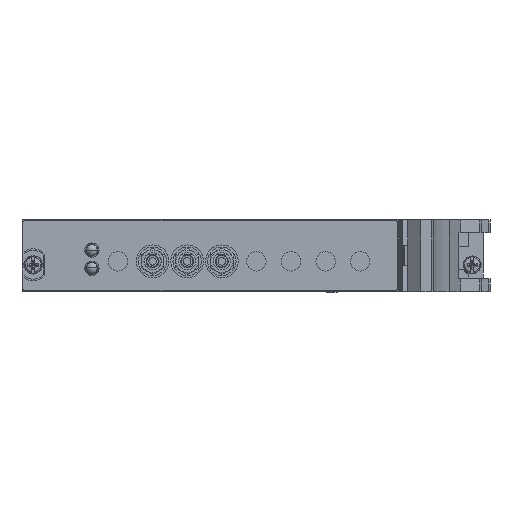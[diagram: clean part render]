
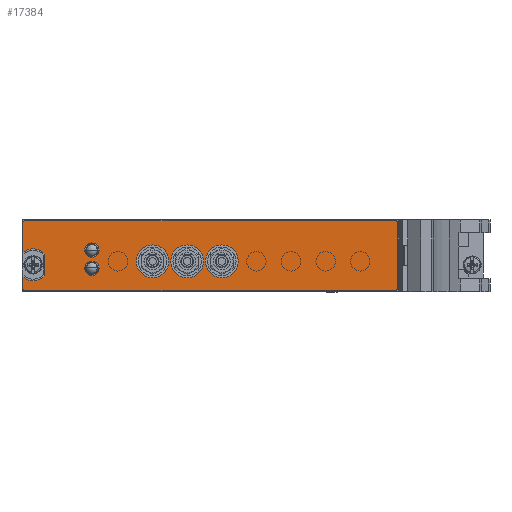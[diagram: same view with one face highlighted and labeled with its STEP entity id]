
A CAD part, left-side view. The second image highlights one B-rep face of the part: STEP entity #17384.
In plain terms, the highlighted planar face has unit normal (-1, 0, 0).
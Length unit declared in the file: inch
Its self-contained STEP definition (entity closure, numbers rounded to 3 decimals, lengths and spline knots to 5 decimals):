
#3555=CARTESIAN_POINT('',(-0.215,0.53465,0.665));
#3556=DIRECTION('',(-1.,0.,0.));
#3557=DIRECTION('',(0.,0.,1.));
#3558=AXIS2_PLACEMENT_3D('',#3555,#3556,#3557);
#3560=DIRECTION('',(0.,1.,0.));
#3561=VECTOR('',#3560,4.07);
#3562=CARTESIAN_POINT('',(-0.215,-3.53535,0.685));
#3563=LINE('',#3562,#3561);
#3564=CARTESIAN_POINT('',(-0.215,-3.53535,0.665));
#3565=DIRECTION('',(-1.,0.,0.));
#3566=DIRECTION('',(0.,-1.,0.));
#3567=AXIS2_PLACEMENT_3D('',#3564,#3565,#3566);
#3569=DIRECTION('',(0.,0.,1.));
#3570=VECTOR('',#3569,0.728);
#3571=CARTESIAN_POINT('',(-0.215,-3.55535,-0.063));
#3572=LINE('',#3571,#3570);
#3573=CARTESIAN_POINT('',(-0.215,-3.53535,-0.063));
#3574=DIRECTION('',(-1.,0.,0.));
#3575=DIRECTION('',(0.,0.,-1.));
#3576=AXIS2_PLACEMENT_3D('',#3573,#3574,#3575);
#3578=DIRECTION('',(0.,-1.,0.));
#3579=VECTOR('',#3578,4.07);
#3580=CARTESIAN_POINT('',(-0.215,0.53465,-0.083));
#3581=LINE('',#3580,#3579);
#3582=CARTESIAN_POINT('',(-0.215,0.53465,-0.063));
#3583=DIRECTION('',(-1.,0.,0.));
#3584=DIRECTION('',(0.,1.,0.));
#3585=AXIS2_PLACEMENT_3D('',#3582,#3583,#3584);
#3587=DIRECTION('',(0.,0.,-1.));
#3588=VECTOR('',#3587,0.12953);
#3589=CARTESIAN_POINT('',(-0.215,0.55465,0.06653));
#3590=LINE('',#3589,#3588);
#3591=CARTESIAN_POINT('',(-0.215,0.44265,0.201));
#3592=DIRECTION('',(1.,0.,0.));
#3593=DIRECTION('',(0.,-0.737,-0.676));
#3594=AXIS2_PLACEMENT_3D('',#3591,#3592,#3593);
#3596=DIRECTION('',(0.,0.,-1.));
#3597=VECTOR('',#3596,0.23651);
#3598=CARTESIAN_POINT('',(-0.215,0.31365,0.31925));
#3599=LINE('',#3598,#3597);
#3600=CARTESIAN_POINT('',(-0.215,0.44265,0.201));
#3601=DIRECTION('',(1.,0.,0.));
#3602=DIRECTION('',(0.,0.64,0.768));
#3603=AXIS2_PLACEMENT_3D('',#3600,#3601,#3602);
#3605=DIRECTION('',(0.,0.,-1.));
#3606=VECTOR('',#3605,0.32953);
#3607=CARTESIAN_POINT('',(-0.215,0.55465,0.665));
#3608=LINE('',#3607,#3606);
#3609=CARTESIAN_POINT('',(-0.215,-0.20196,0.362));
#3610=DIRECTION('',(-1.,0.,0.));
#3611=DIRECTION('',(0.,0.,1.));
#3612=AXIS2_PLACEMENT_3D('',#3609,#3610,#3611);
#3614=CARTESIAN_POINT('',(-0.215,-0.20196,0.362));
#3615=DIRECTION('',(-1.,0.,0.));
#3616=DIRECTION('',(0.,0.,-1.));
#3617=AXIS2_PLACEMENT_3D('',#3614,#3615,#3616);
#3619=CARTESIAN_POINT('',(-0.215,-0.20196,0.162));
#3620=DIRECTION('',(-1.,0.,0.));
#3621=DIRECTION('',(0.,0.,1.));
#3622=AXIS2_PLACEMENT_3D('',#3619,#3620,#3621);
#3624=CARTESIAN_POINT('',(-0.215,-0.20196,0.162));
#3625=DIRECTION('',(-1.,0.,0.));
#3626=DIRECTION('',(0.,0.,-1.));
#3627=AXIS2_PLACEMENT_3D('',#3624,#3625,#3626);
#3629=CARTESIAN_POINT('',(-0.215,-1.62896,0.239));
#3630=DIRECTION('',(-1.,0.,0.));
#3631=DIRECTION('',(0.,0.,1.));
#3632=AXIS2_PLACEMENT_3D('',#3629,#3630,#3631);
#3634=CARTESIAN_POINT('',(-0.215,-1.62896,0.239));
#3635=DIRECTION('',(-1.,0.,0.));
#3636=DIRECTION('',(0.,0.,-1.));
#3637=AXIS2_PLACEMENT_3D('',#3634,#3635,#3636);
#3639=CARTESIAN_POINT('',(-0.215,-1.24896,0.239));
#3640=DIRECTION('',(-1.,0.,0.));
#3641=DIRECTION('',(0.,0.,1.));
#3642=AXIS2_PLACEMENT_3D('',#3639,#3640,#3641);
#3644=CARTESIAN_POINT('',(-0.215,-1.24896,0.239));
#3645=DIRECTION('',(-1.,0.,0.));
#3646=DIRECTION('',(0.,0.,-1.));
#3647=AXIS2_PLACEMENT_3D('',#3644,#3645,#3646);
#3649=CARTESIAN_POINT('',(-0.215,-0.86896,0.239));
#3650=DIRECTION('',(-1.,0.,0.));
#3651=DIRECTION('',(0.,0.,1.));
#3652=AXIS2_PLACEMENT_3D('',#3649,#3650,#3651);
#3654=CARTESIAN_POINT('',(-0.215,-0.86896,0.239));
#3655=DIRECTION('',(-1.,0.,0.));
#3656=DIRECTION('',(0.,0.,-1.));
#3657=AXIS2_PLACEMENT_3D('',#3654,#3655,#3656);
#12288=CARTESIAN_POINT('',(-0.215,0.53465,0.685));
#12289=CARTESIAN_POINT('',(-0.215,0.55465,0.665));
#12290=VERTEX_POINT('',#12288);
#12291=VERTEX_POINT('',#12289);
#12292=CARTESIAN_POINT('',(-0.215,0.55465,0.33547));
#12293=VERTEX_POINT('',#12292);
#12294=CARTESIAN_POINT('',(-0.215,0.31365,0.31925));
#12295=VERTEX_POINT('',#12294);
#12296=CARTESIAN_POINT('',(-0.215,0.31365,0.08275));
#12297=VERTEX_POINT('',#12296);
#12298=CARTESIAN_POINT('',(-0.215,0.55465,0.06653));
#12299=VERTEX_POINT('',#12298);
#12300=CARTESIAN_POINT('',(-0.215,0.55465,-0.063));
#12301=VERTEX_POINT('',#12300);
#12302=CARTESIAN_POINT('',(-0.215,0.53465,-0.083));
#12303=VERTEX_POINT('',#12302);
#12304=CARTESIAN_POINT('',(-0.215,-3.53535,-0.083));
#12305=VERTEX_POINT('',#12304);
#12306=CARTESIAN_POINT('',(-0.215,-3.55535,-0.063));
#12307=VERTEX_POINT('',#12306);
#12308=CARTESIAN_POINT('',(-0.215,-3.55535,0.665));
#12309=VERTEX_POINT('',#12308);
#12310=CARTESIAN_POINT('',(-0.215,-3.53535,0.685));
#12311=VERTEX_POINT('',#12310);
#12312=CARTESIAN_POINT('',(-0.215,-0.20196,0.441));
#12313=CARTESIAN_POINT('',(-0.215,-0.20196,0.283));
#12314=VERTEX_POINT('',#12312);
#12315=VERTEX_POINT('',#12313);
#12316=CARTESIAN_POINT('',(-0.215,-0.20196,0.241));
#12317=CARTESIAN_POINT('',(-0.215,-0.20196,0.083));
#12318=VERTEX_POINT('',#12316);
#12319=VERTEX_POINT('',#12317);
#12320=CARTESIAN_POINT('',(-0.215,-1.62896,0.419));
#12321=CARTESIAN_POINT('',(-0.215,-1.62896,0.059));
#12322=VERTEX_POINT('',#12320);
#12323=VERTEX_POINT('',#12321);
#12324=CARTESIAN_POINT('',(-0.215,-1.24896,0.419));
#12325=CARTESIAN_POINT('',(-0.215,-1.24896,0.059));
#12326=VERTEX_POINT('',#12324);
#12327=VERTEX_POINT('',#12325);
#12328=CARTESIAN_POINT('',(-0.215,-0.86896,0.419));
#12329=CARTESIAN_POINT('',(-0.215,-0.86896,0.059));
#12330=VERTEX_POINT('',#12328);
#12331=VERTEX_POINT('',#12329);
#17335=CARTESIAN_POINT('',(-0.215,0.44265,0.201));
#17336=DIRECTION('',(-1.,0.,0.));
#17337=DIRECTION('',(0.,0.,1.));
#17338=AXIS2_PLACEMENT_3D('',#17335,#17336,#17337);
#17339=PLANE('',#17338);
#17340=ORIENTED_EDGE('',*,*,#17175,.F.);
#17341=ORIENTED_EDGE('',*,*,#17190,.F.);
#17342=ORIENTED_EDGE('',*,*,#17204,.F.);
#17343=ORIENTED_EDGE('',*,*,#17218,.F.);
#17344=ORIENTED_EDGE('',*,*,#17232,.F.);
#17345=ORIENTED_EDGE('',*,*,#17246,.F.);
#17346=ORIENTED_EDGE('',*,*,#17260,.F.);
#17347=ORIENTED_EDGE('',*,*,#17274,.F.);
#17348=ORIENTED_EDGE('',*,*,#17288,.F.);
#17349=ORIENTED_EDGE('',*,*,#17302,.F.);
#17350=ORIENTED_EDGE('',*,*,#17316,.F.);
#17351=ORIENTED_EDGE('',*,*,#17329,.F.);
#17352=EDGE_LOOP('',(#17340,#17341,#17342,#17343,#17344,#17345,#17346,#17347,
#17348,#17349,#17350,#17351));
#17353=FACE_OUTER_BOUND('',#17352,.F.);
#17355=ORIENTED_EDGE('',*,*,#17354,.T.);
#17357=ORIENTED_EDGE('',*,*,#17356,.T.);
#17358=EDGE_LOOP('',(#17355,#17357));
#17359=FACE_BOUND('',#17358,.F.);
#17361=ORIENTED_EDGE('',*,*,#17360,.T.);
#17363=ORIENTED_EDGE('',*,*,#17362,.T.);
#17364=EDGE_LOOP('',(#17361,#17363));
#17365=FACE_BOUND('',#17364,.F.);
#17367=ORIENTED_EDGE('',*,*,#17366,.T.);
#17369=ORIENTED_EDGE('',*,*,#17368,.T.);
#17370=EDGE_LOOP('',(#17367,#17369));
#17371=FACE_BOUND('',#17370,.F.);
#17373=ORIENTED_EDGE('',*,*,#17372,.T.);
#17375=ORIENTED_EDGE('',*,*,#17374,.T.);
#17376=EDGE_LOOP('',(#17373,#17375));
#17377=FACE_BOUND('',#17376,.F.);
#17379=ORIENTED_EDGE('',*,*,#17378,.T.);
#17381=ORIENTED_EDGE('',*,*,#17380,.T.);
#17382=EDGE_LOOP('',(#17379,#17381));
#17383=FACE_BOUND('',#17382,.F.);
#17384=ADVANCED_FACE('',(#17353,#17359,#17365,#17371,#17377,#17383),#17339,.T.);
#3559=CIRCLE('',#3558,0.02);
#3568=CIRCLE('',#3567,0.02);
#3577=CIRCLE('',#3576,0.02);
#3586=CIRCLE('',#3585,0.02);
#3595=CIRCLE('',#3594,0.175);
#3604=CIRCLE('',#3603,0.175);
#3613=CIRCLE('',#3612,0.079);
#3618=CIRCLE('',#3617,0.079);
#3623=CIRCLE('',#3622,0.079);
#3628=CIRCLE('',#3627,0.079);
#3633=CIRCLE('',#3632,0.18);
#3638=CIRCLE('',#3637,0.18);
#3643=CIRCLE('',#3642,0.18);
#3648=CIRCLE('',#3647,0.18);
#3653=CIRCLE('',#3652,0.18);
#3658=CIRCLE('',#3657,0.18);
#17175=EDGE_CURVE('',#12290,#12291,#3559,.T.);
#17190=EDGE_CURVE('',#12311,#12290,#3563,.T.);
#17204=EDGE_CURVE('',#12309,#12311,#3568,.T.);
#17218=EDGE_CURVE('',#12307,#12309,#3572,.T.);
#17232=EDGE_CURVE('',#12305,#12307,#3577,.T.);
#17246=EDGE_CURVE('',#12303,#12305,#3581,.T.);
#17260=EDGE_CURVE('',#12301,#12303,#3586,.T.);
#17274=EDGE_CURVE('',#12299,#12301,#3590,.T.);
#17288=EDGE_CURVE('',#12297,#12299,#3595,.T.);
#17302=EDGE_CURVE('',#12295,#12297,#3599,.T.);
#17316=EDGE_CURVE('',#12293,#12295,#3604,.T.);
#17329=EDGE_CURVE('',#12291,#12293,#3608,.T.);
#17354=EDGE_CURVE('',#12314,#12315,#3613,.T.);
#17356=EDGE_CURVE('',#12315,#12314,#3618,.T.);
#17360=EDGE_CURVE('',#12318,#12319,#3623,.T.);
#17362=EDGE_CURVE('',#12319,#12318,#3628,.T.);
#17366=EDGE_CURVE('',#12322,#12323,#3633,.T.);
#17368=EDGE_CURVE('',#12323,#12322,#3638,.T.);
#17372=EDGE_CURVE('',#12326,#12327,#3643,.T.);
#17374=EDGE_CURVE('',#12327,#12326,#3648,.T.);
#17378=EDGE_CURVE('',#12330,#12331,#3653,.T.);
#17380=EDGE_CURVE('',#12331,#12330,#3658,.T.);
